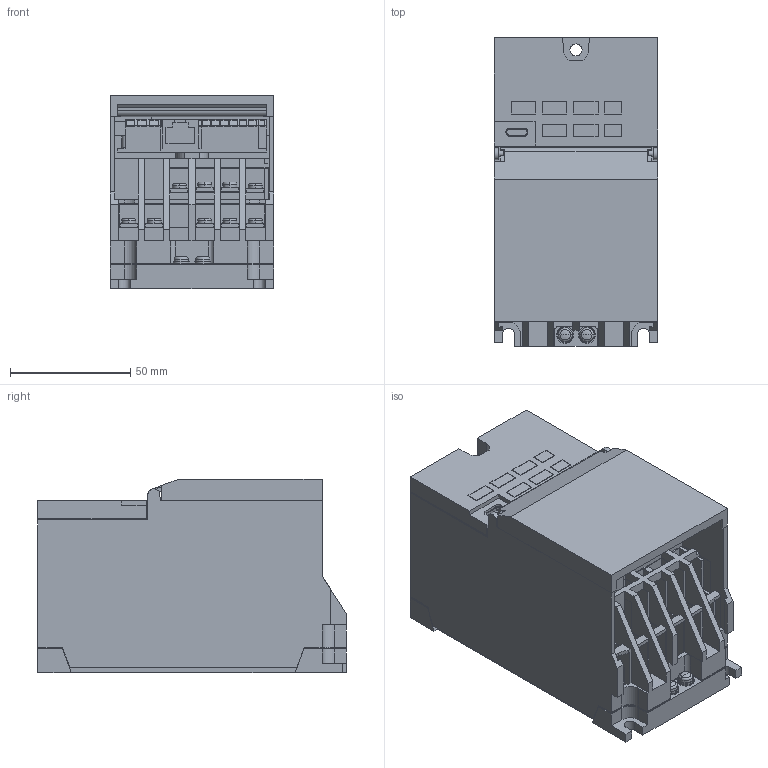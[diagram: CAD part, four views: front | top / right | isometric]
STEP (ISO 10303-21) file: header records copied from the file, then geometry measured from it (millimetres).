
FILE_DESCRIPTION((''),'2;1');
FILE_NAME('3D-INV-53_01_ASM','2024-11-27T15:47:46',('CT89920'),(''),'CREO PARAMETRIC BY PTC INC, 2022281','CREO PARAMETRIC BY PTC INC, 2022281','');
FILE_SCHEMA(('CONFIG_CONTROL_DESIGN','SHAPE_APPEARANCE_LAYERS_GROUPS'));
Length unit declared in the file: millimetre
Products named in the file (7): 3D-BASE-53_01E; 3D-TE_SHORT-51_01; 3D-TE_NEJI-M3_5X8-ZA7; 3D-TE-NEJI-53_01_ASM; 3D-SW-PW-P-M3_5X10; 3D-S_COV-D80-0_75; 3D-INV-53_01_ASM
Assembly tree (15 placements, depth 3):
  3D-INV-53_01_ASM
    3D-BASE-53_01E
    3D-TE-NEJI-53_01_ASM
      3D-TE_SHORT-51_01
      3D-TE_NEJI-M3_5X8-ZA7  x9
    3D-SW-PW-P-M3_5X10  x2
    3D-S_COV-D80-0_75
Bounding box: 68 x 128 x 80.5 mm (x, y, z)
Volume: 215557.6 mm3; surface area: 132825.7 mm2
Topology: 14 solids, 14 shells, 873 faces, 2365 edges, 1537 vertices
Faces by surface type: plane 712, cylinder 131, torus 22, cone 4, sphere 4
Entity records: 28911 total; most frequent: CARTESIAN_POINT 4258, ORIENTED_EDGE 4214, DIRECTION 3873, EDGE_CURVE 2107, VECTOR 1895, LINE 1895, VERTEX_POINT 1374, AXIS2_PLACEMENT_3D 989
